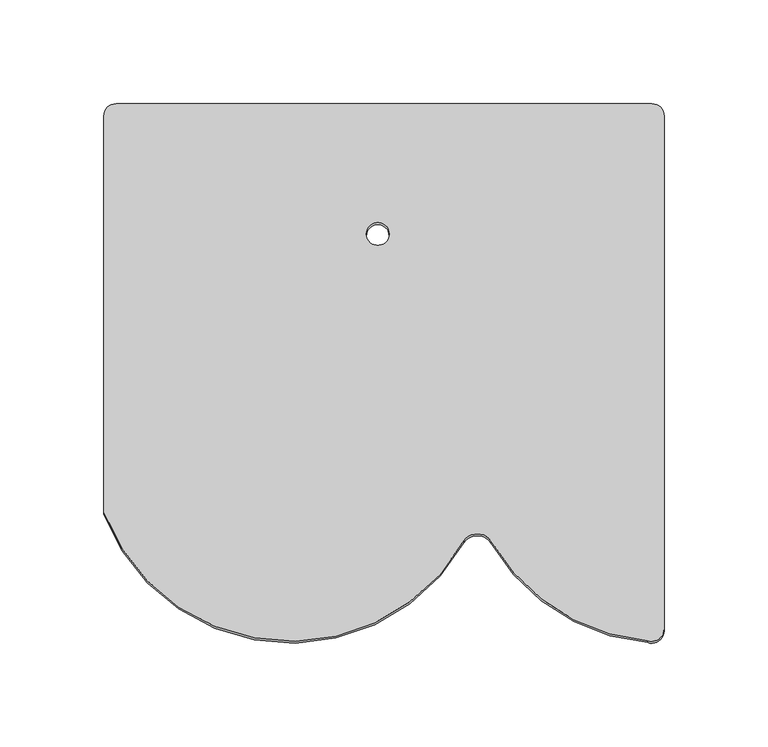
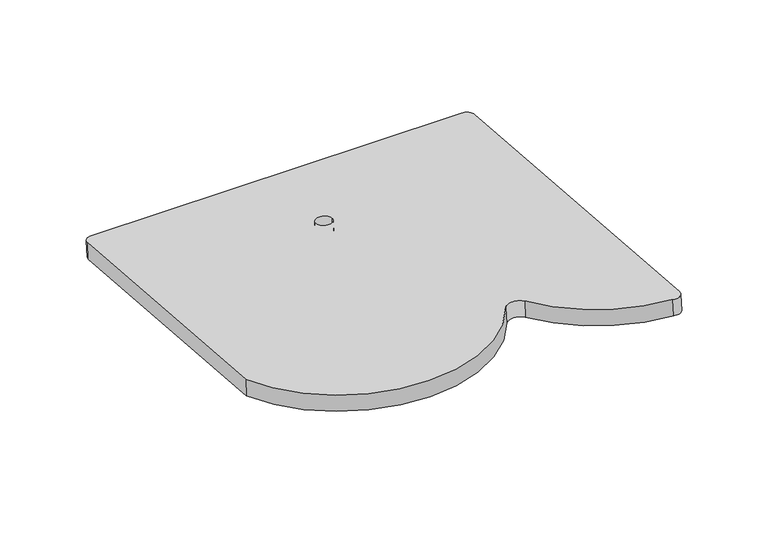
"""IFC4 building model written with IfcOpenShell, lengths in millimetres: proxy geometry, ML-PR-V-P-BLACK-P : K 1,5X-P."""

from ifc_helpers import new_model, si_unit, point, frame, frame_2d, origin, place, context, project, spatial, polyline, circle_curve, trimmed, segment, composite_curve, outline, extrude, source, transform, mapped, element, save


def specialty_equipment_566277b8(model_context):
    return source(origin(), model_context, "Body", "SweptSolid", [
        extrude(outline(composite_curve([segment(trimmed(circle_curve(frame_2d((311.4065862, -6.0)), 6.0), [point((311.4065862, 0.0))], [point((317.4065861, -6.0))], False, "CARTESIAN"), True, "CONTINUOUS"), segment(polyline([(317.4065861, -6.0), (317.4065861, -200.9980456), (317.4065861, -264.0)]), True, "CONTINUOUS"), segment(trimmed(circle_curve(frame_2d((311.4065862, -264.0)), 6.0), [point((317.4065861, -264.0))], [point((311.4065862, -270.0))], False, "CARTESIAN"), True, "CONTINUOUS"), segment(polyline([(311.4065862, -270.0), (63.4065861, -270.0)]), True, "CONTINUOUS"), segment(trimmed(circle_curve(frame_2d((63.4065861, -264.0)), 6.0), [point((63.4065861, -270.0))], [point((57.7376117, -262.0346176))], False, "CARTESIAN"), True, "CONTINUOUS"), segment(trimmed(circle_curve(frame_2d((153.4065862, -270.0)), 96.0), [point((57.7376117, -262.0346176))], [point((106.0035455, -186.5197525))], False, "CARTESIAN"), True, "CONTINUOUS"), segment(trimmed(circle_curve(frame_2d((101.3675097, -180.0)), 8.0), [point((106.0035455, -186.5197525))], [point((106.0035455, -173.4802475))], True, "CARTESIAN"), True, "CONTINUOUS"), segment(trimmed(circle_curve(frame_2d((153.4065862, -90.0)), 96.0), [point((106.0035455, -173.4802475))], [point((120.0, 0.0))], False, "CARTESIAN"), True, "CONTINUOUS"), segment(polyline([(120.0, 0.0), (311.4065862, 0.0)]), True, "CONTINUOUS")], self_intersect=False), holes=[composite_curve([segment(trimmed(circle_curve(frame_2d((254.4065861, -132.0)), 5.5), [point((254.4065861, -126.5))], [point((254.4065861, -137.5))], True, "CARTESIAN"), True, "CONTINUOUS"), segment(trimmed(circle_curve(frame_2d((254.4065861, -132.0)), 5.5), [point((254.4065861, -137.5))], [point((254.4065861, -126.5))], True, "CARTESIAN"), True, "CONTINUOUS")], self_intersect=False)]), frame((-90.0, -275.2448576, 21.5035045), z_axis=(0.0, 0.07788766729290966, 0.9969621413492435), x_axis=(0.0, 0.9969621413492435, -0.07788766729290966)), (0.0, 0.0, 1.0), 11.5),
    ])


if __name__ == "__main__":
    model = new_model("IFC4")
    model_context = context("Model", 3, world=origin())
    ifc_project = project(units=[si_unit("LENGTHUNIT", "METRE", prefix="MILLI")], contexts=[model_context])
    site = spatial("IfcSite", under=ifc_project)
    building = spatial("IfcBuilding", under=site)
    placement = place(None, origin())
    specialty_equipment_shape = specialty_equipment_566277b8(model_context)
    element("IfcBuildingElementProxy", 1, Name="ML-PR-V-P-BLACK-P : K 1,5X-P", ObjectType="ML-PR-V-P-BLACK-P : K 1,5X-P", at=placement, inside=building, context=model_context, shape_type="MappedRepresentation", body=[
        mapped(specialty_equipment_shape, transform((0.0, 0.0, 0.0), x_axis=(1.0, 0.0, 0.0), y_axis=(0.0, 1.0, 0.0), z_axis=(0.0, 0.0, 1.0))),
    ])
    save(model, "model.ifc")
